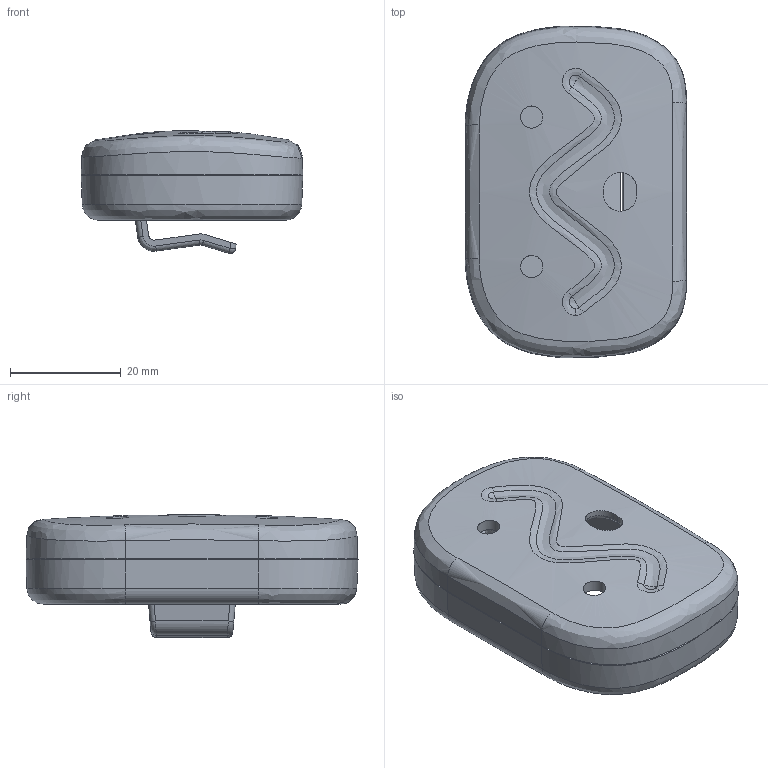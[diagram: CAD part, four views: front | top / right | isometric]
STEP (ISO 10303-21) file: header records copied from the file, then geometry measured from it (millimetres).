
FILE_DESCRIPTION(/* description */ (''),/* implementation_level */ '2;1');
FILE_NAME(/* name */ 'B1_ZP.stp',/* time_stamp */ '2018-06-02T09:55:52+08:00',/* author */ (''),/* organization */ (''),/* preprocessor_version */ 'ST-DEVELOPER v16',/* originating_system */ 'SIEMENS PLM Software NX 10.0',/* authorisation */ '');
FILE_SCHEMA (('AUTOMOTIVE_DESIGN { 1 0 10303 214 3 1 1 1 }'));
Length unit declared in the file: millimetre
Products named in the file (3): A1S_id11_x_t; B1下合盖2_id6_x_t; B6_ZP_x_t
Assembly tree (2 placements, depth 2):
  B6_ZP_x_t
    B1下合盖2_id6_x_t
    A1S_id11_x_t
Bounding box: 40 x 59.95 x 22.22 mm (x, y, z)
Volume: 12184.3 mm3; surface area: 13810.6 mm2
Topology: 2 solids, 2 shells, 149 faces, 359 edges, 225 vertices
Faces by surface type: plane 65, bspline 49, cylinder 33, sphere 2
Full cylindrical faces by diameter (mm): 3 x2, 3.5 x2, 4 x2, 7 x2, 7.5 x2, 11 x2
Entity records: 8438 total; most frequent: CARTESIAN_POINT 5394, ORIENTED_EDGE 706, DIRECTION 361, EDGE_CURVE 353, VERTEX_POINT 223, B_SPLINE_CURVE_WITH_KNOTS 179, EDGE_LOOP 176, ADVANCED_FACE 149
